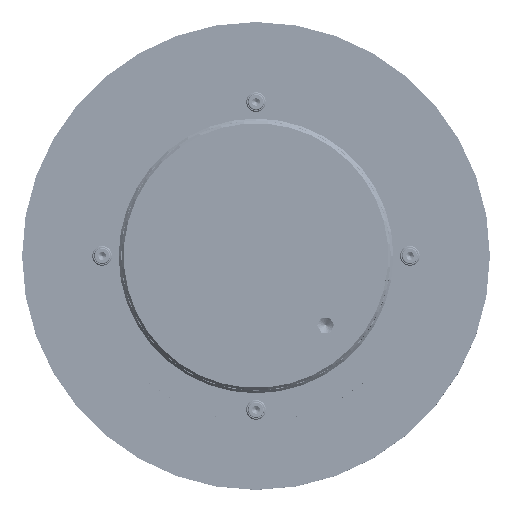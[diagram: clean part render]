
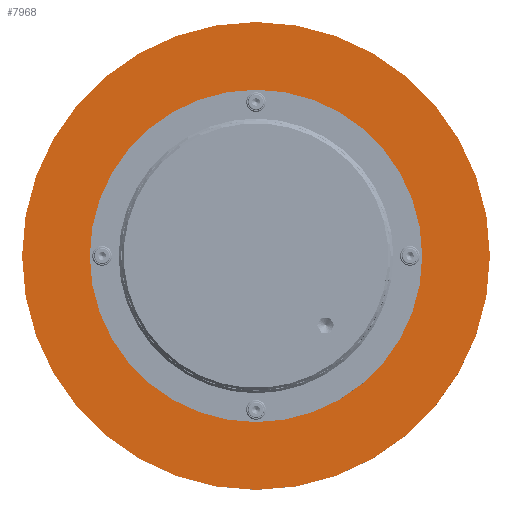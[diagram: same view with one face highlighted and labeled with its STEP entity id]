
A CAD part, top view. The second image highlights one B-rep face of the part: STEP entity #7968.
In plain terms, the highlighted planar face has unit normal (0, 0, 1) as drawn and (0, 0, -1) by its records, which use the part's own axes.
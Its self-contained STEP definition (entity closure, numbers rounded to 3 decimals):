
#909=FACE_BOUND('',#1614,.T.);
#910=FACE_BOUND('',#1615,.T.);
#911=FACE_BOUND('',#1616,.T.);
#912=FACE_BOUND('',#1617,.T.);
#913=FACE_BOUND('',#1618,.T.);
#992=PLANE('',#8917);
#1128=FACE_OUTER_BOUND('',#1613,.T.);
#1613=EDGE_LOOP('',(#5538));
#1614=EDGE_LOOP('',(#5539));
#1615=EDGE_LOOP('',(#5540));
#1616=EDGE_LOOP('',(#5541));
#1617=EDGE_LOOP('',(#5542));
#1618=EDGE_LOOP('',(#5543));
#2863=CIRCLE('',#8897,3.324);
#2865=CIRCLE('',#8901,3.324);
#2867=CIRCLE('',#8905,3.324);
#2869=CIRCLE('',#8909,3.324);
#2870=CIRCLE('',#8911,65.5);
#2873=CIRCLE('',#8915,190.);
#3557=VERTEX_POINT('',#13006);
#3560=VERTEX_POINT('',#13015);
#3563=VERTEX_POINT('',#13024);
#3566=VERTEX_POINT('',#13033);
#3567=VERTEX_POINT('',#13037);
#3570=VERTEX_POINT('',#13045);
#4326=EDGE_CURVE('',#3557,#3557,#2863,.T.);
#4330=EDGE_CURVE('',#3560,#3560,#2865,.T.);
#4334=EDGE_CURVE('',#3563,#3563,#2867,.T.);
#4338=EDGE_CURVE('',#3566,#3566,#2869,.T.);
#4340=EDGE_CURVE('',#3567,#3567,#2870,.T.);
#4345=EDGE_CURVE('',#3570,#3570,#2873,.T.);
#5538=ORIENTED_EDGE('',*,*,#4345,.T.);
#5539=ORIENTED_EDGE('',*,*,#4326,.T.);
#5540=ORIENTED_EDGE('',*,*,#4330,.T.);
#5541=ORIENTED_EDGE('',*,*,#4334,.T.);
#5542=ORIENTED_EDGE('',*,*,#4338,.T.);
#5543=ORIENTED_EDGE('',*,*,#4340,.T.);
#7968=ADVANCED_FACE('',(#1128,#909,#910,#911,#912,#913),#992,.T.);
#8897=AXIS2_PLACEMENT_3D('',#13007,#10164,#10165);
#8901=AXIS2_PLACEMENT_3D('',#13016,#10174,#10175);
#8905=AXIS2_PLACEMENT_3D('',#13025,#10184,#10185);
#8909=AXIS2_PLACEMENT_3D('',#13034,#10194,#10195);
#8911=AXIS2_PLACEMENT_3D('',#13038,#10199,#10200);
#8915=AXIS2_PLACEMENT_3D('',#13047,#10209,#10210);
#8917=AXIS2_PLACEMENT_3D('',#13049,#10213,#10214);
#10164=DIRECTION('center_axis',(0.,0.,1.));
#10165=DIRECTION('ref_axis',(-1.,0.,0.));
#10174=DIRECTION('center_axis',(0.,0.,1.));
#10175=DIRECTION('ref_axis',(-1.,0.,0.));
#10184=DIRECTION('center_axis',(0.,0.,1.));
#10185=DIRECTION('ref_axis',(-1.,0.,0.));
#10194=DIRECTION('center_axis',(0.,0.,1.));
#10195=DIRECTION('ref_axis',(-1.,0.,0.));
#10199=DIRECTION('center_axis',(0.,0.,1.));
#10200=DIRECTION('ref_axis',(-1.,0.,0.));
#10209=DIRECTION('center_axis',(0.,0.,-1.));
#10210=DIRECTION('ref_axis',(-1.,0.,0.));
#10213=DIRECTION('center_axis',(0.,0.,-1.));
#10214=DIRECTION('ref_axis',(-1.,0.,0.));
#13006=CARTESIAN_POINT('',(-121.677,0.,0.));
#13007=CARTESIAN_POINT('Origin',(-125.,0.,0.));
#13015=CARTESIAN_POINT('',(128.324,0.,0.));
#13016=CARTESIAN_POINT('Origin',(125.,0.,0.));
#13024=CARTESIAN_POINT('',(3.324,-125.,0.));
#13025=CARTESIAN_POINT('Origin',(0.,-125.,0.));
#13033=CARTESIAN_POINT('',(3.323,125.,0.));
#13034=CARTESIAN_POINT('Origin',(0.,125.,0.));
#13037=CARTESIAN_POINT('',(65.5,0.,0.));
#13038=CARTESIAN_POINT('Origin',(0.,0.,0.));
#13045=CARTESIAN_POINT('',(190.,0.,0.));
#13047=CARTESIAN_POINT('Origin',(0.,0.,0.));
#13049=CARTESIAN_POINT('Origin',(0.,0.,0.));
